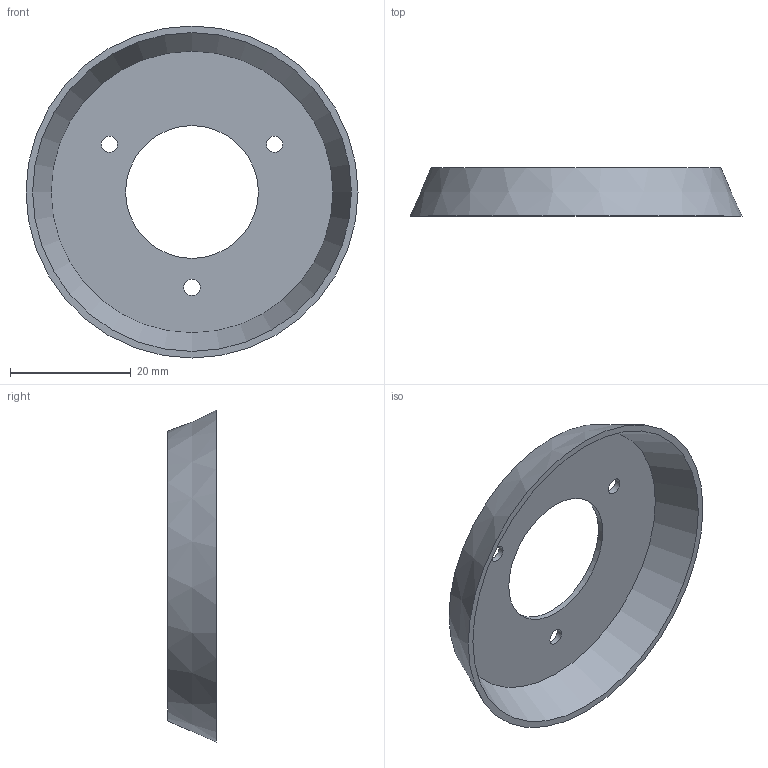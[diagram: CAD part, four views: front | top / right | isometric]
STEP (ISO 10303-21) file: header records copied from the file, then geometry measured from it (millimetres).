
FILE_DESCRIPTION( ( 'STEP AP203' ), '1' );
FILE_NAME( 'C:/Temp/Ganter_Step_05_03_2020/data/1_4/gn_526_1/gn_526_1_b/Scale ring GN 526.1-55-B.stp', '2020-03-05T10:48:54', ( 'License CC BY-ND 4.0' ), ( 'CADENAS' ), ' ', 'PARTsolutions', ' ' );
FILE_SCHEMA( ( 'CONFIG_CONTROL_DESIGN' ) );
Length unit declared in the file: millimetre
Products named in the file (1): _Scale ring GN 526.1-55-B
Bounding box: 55 x 8 x 55 mm (x, y, z)
Volume: 2665.9 mm3; surface area: 5613.7 mm2
Topology: 1 solids, 1 shells, 9 faces, 21 edges, 15 vertices
Faces by surface type: cylinder 4, plane 3, cone 2
Full cylindrical faces by diameter (mm): 2.7 x3, 22 x1
Entity records: 274 total; most frequent: DIRECTION 44, CARTESIAN_POINT 34, EDGE_LOOP 24, ORIENTED_EDGE 24, AXIS2_PLACEMENT_3D 22, FACE_OUTER_BOUND 13, EDGE_CURVE 12, VERTEX_POINT 12
